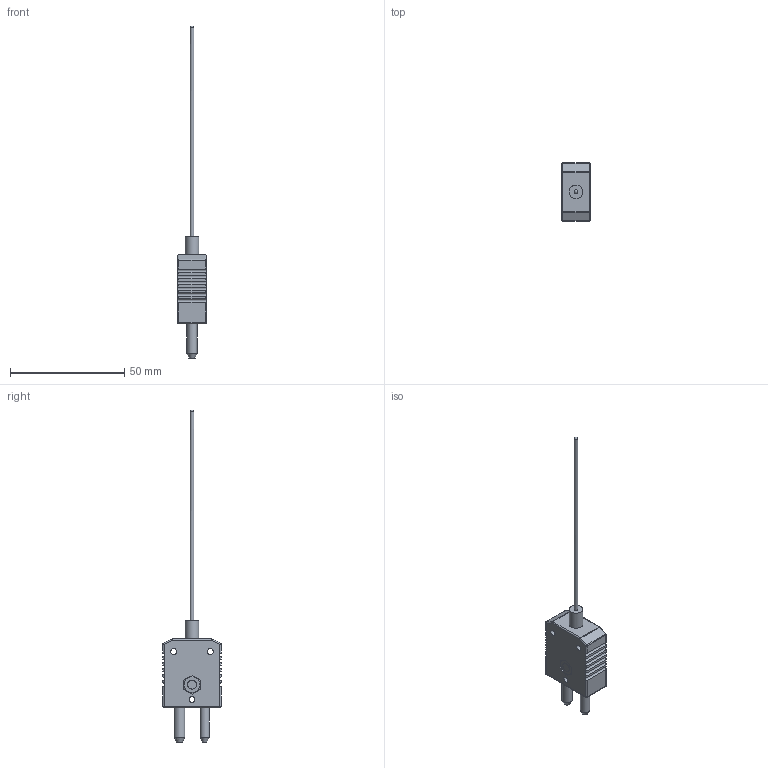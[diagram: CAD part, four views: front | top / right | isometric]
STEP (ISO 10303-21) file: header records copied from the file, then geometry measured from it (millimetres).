
FILE_DESCRIPTION (( 'STEP AP203' ), '1' );
FILE_NAME ('YIT75S-1(0).STEP', '2025-07-30T05:43:49', ( '' ), ( '' ), 'SwSTEP 2.0', 'SolidWorks 2024', '' );
FILE_SCHEMA (( 'CONFIG_CONTROL_DESIGN' ));
Length unit declared in the file: millimetre
Products named in the file (1): YIT75S-1(0)
Bounding box: 12.5 x 25.4 x 144.99 mm (x, y, z)
Volume: 9857.3 mm3; surface area: 4550.7 mm2
Topology: 1 solids, 1 shells, 151 faces, 389 edges, 243 vertices
Faces by surface type: cylinder 68, plane 59, sphere 13, cone 8, torus 3
Full cylindrical faces by diameter (mm): 1.6 x1, 2.6 x3, 3.9 x2, 4 x4, 4.7 x1, 6 x1, 6.7 x1, 7 x1
Entity records: 4804 total; most frequent: CARTESIAN_POINT 1279, ORIENTED_EDGE 702, DIRECTION 693, EDGE_CURVE 351, AXIS2_PLACEMENT_3D 254, VERTEX_POINT 232, EDGE_LOOP 187, VECTOR 185
